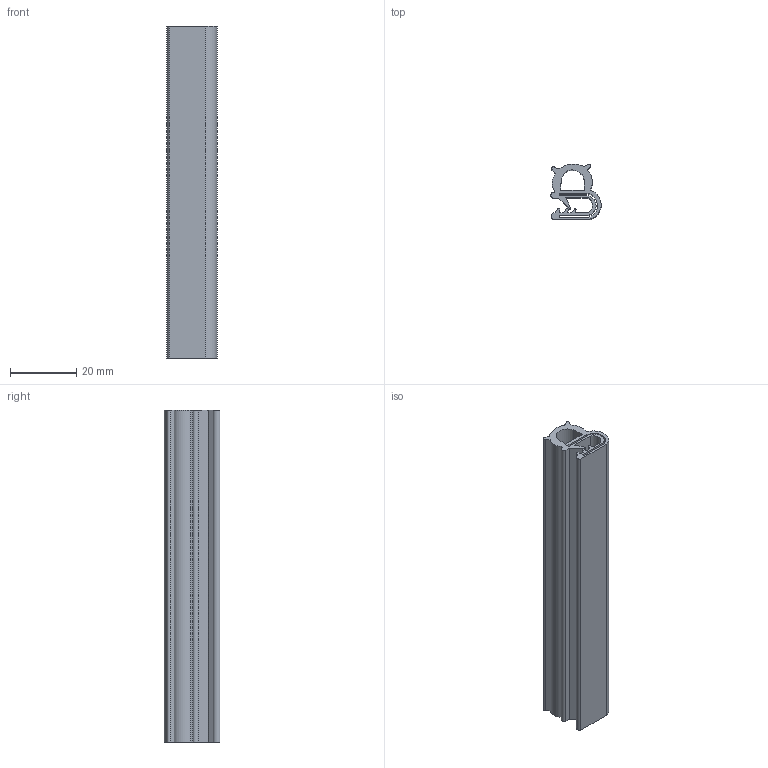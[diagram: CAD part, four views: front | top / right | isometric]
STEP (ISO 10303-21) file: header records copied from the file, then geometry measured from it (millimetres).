
FILE_DESCRIPTION((''),'2;1');
FILE_NAME('MFT-009','2019-12-31T08:28:00',('SJ'),(''),'CREO PARAMETRIC BY PTC INC, 2018020','CREO PARAMETRIC BY PTC INC, 2018020','');
FILE_SCHEMA(('CONFIG_CONTROL_DESIGN'));
Length unit declared in the file: millimetre
Products named in the file (1): MFT-009
Bounding box: 15.13 x 16.68 x 100 mm (x, y, z)
Volume: 10793.6 mm3; surface area: 17504.4 mm2
Topology: 1 solids, 1 shells, 55 faces, 159 edges, 106 vertices
Faces by surface type: plane 33, cylinder 22
Entity records: 1863 total; most frequent: CARTESIAN_POINT 320, ORIENTED_EDGE 318, DIRECTION 313, EDGE_CURVE 159, VECTOR 115, LINE 115, VERTEX_POINT 106, AXIS2_PLACEMENT_3D 99
